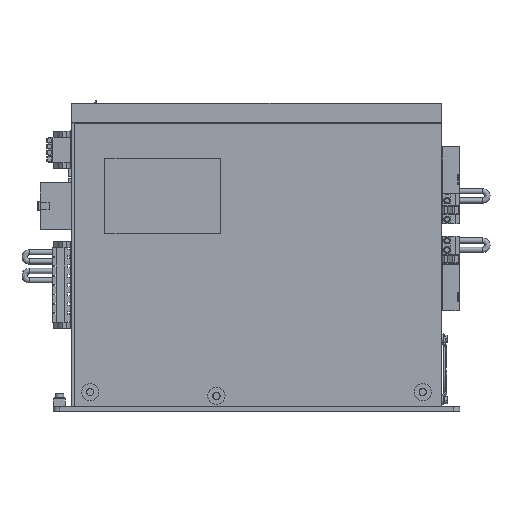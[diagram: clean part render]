
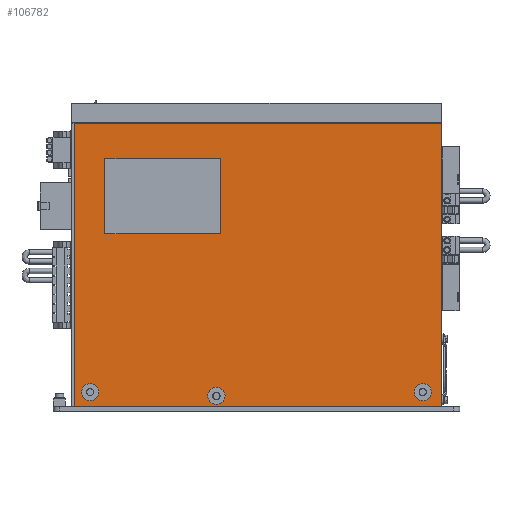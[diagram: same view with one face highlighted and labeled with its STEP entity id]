
A CAD part, left-side view. The second image highlights one B-rep face of the part: STEP entity #106782.
In plain terms, the highlighted planar face has unit normal (-1, 0, 0).
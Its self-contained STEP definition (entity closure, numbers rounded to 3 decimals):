
#1300 = EDGE_CURVE ( 'NONE', #50129, #69483, #17513, .T. ) ;
#1447 = CARTESIAN_POINT ( 'NONE',  ( -10., -9.5, 233.9 ) ) ;
#1585 = CIRCLE ( 'NONE', #92617, 6.96 ) ;
#2237 = DIRECTION ( 'NONE',  ( -1., 0., 0. ) ) ;
#3244 = CARTESIAN_POINT ( 'NONE',  ( -10., -9.5, 4.1 ) ) ;
#3688 = CARTESIAN_POINT ( 'NONE',  ( -10., -128.5, 144. ) ) ;
#4369 = EDGE_CURVE ( 'NONE', #6700, #123056, #88890, .T. ) ;
#4896 = AXIS2_PLACEMENT_3D ( 'NONE', #14669, #84615, #24755 ) ;
#6700 = VERTEX_POINT ( 'NONE', #65959 ) ;
#7814 = VERTEX_POINT ( 'NONE', #3688 ) ;
#8140 = EDGE_CURVE ( 'NONE', #123056, #7814, #125454, .T. ) ;
#9101 = VECTOR ( 'NONE', #74887, 1000. ) ;
#9625 = CARTESIAN_POINT ( 'NONE',  ( -10., -9.5, 4.1 ) ) ;
#9867 = DIRECTION ( 'NONE',  ( -1., 0., 0. ) ) ;
#11481 = ORIENTED_EDGE ( 'NONE', *, *, #73257, .F. ) ;
#11666 = ORIENTED_EDGE ( 'NONE', *, *, #14459, .T. ) ;
#14190 = CARTESIAN_POINT ( 'NONE',  ( -10., -118.04, 12.5 ) ) ;
#14459 = EDGE_CURVE ( 'NONE', #118516, #40580, #95015, .T. ) ;
#14669 = CARTESIAN_POINT ( 'NONE',  ( -10., -292.5, 15.5 ) ) ;
#14791 = DIRECTION ( 'NONE',  ( -1., 0., 0. ) ) ;
#14931 = CARTESIAN_POINT ( 'NONE',  ( -10., -34.5, 205. ) ) ;
#16178 = CARTESIAN_POINT ( 'NONE',  ( -10., -292.5, 15.5 ) ) ;
#16663 = CARTESIAN_POINT ( 'NONE',  ( -10., -128.5, 205. ) ) ;
#16781 = VERTEX_POINT ( 'NONE', #125136 ) ;
#17513 = LINE ( 'NONE', #3244, #67595 ) ;
#17820 = CARTESIAN_POINT ( 'NONE',  ( -10., -299.46, 15.5 ) ) ;
#17927 = CIRCLE ( 'NONE', #65117, 6.96 ) ;
#18656 = CIRCLE ( 'NONE', #90227, 6.96 ) ;
#19078 = LINE ( 'NONE', #49793, #69173 ) ;
#19898 = ORIENTED_EDGE ( 'NONE', *, *, #58699, .F. ) ;
#20327 = CARTESIAN_POINT ( 'NONE',  ( -10., -22.5, 15.5 ) ) ;
#23535 = CARTESIAN_POINT ( 'NONE',  ( -10., -307.5, 234. ) ) ;
#24755 = DIRECTION ( 'NONE',  ( 0., 1., 0. ) ) ;
#25961 = ORIENTED_EDGE ( 'NONE', *, *, #84791, .F. ) ;
#26245 = DIRECTION ( 'NONE',  ( 0., 1., 0. ) ) ;
#28618 = ORIENTED_EDGE ( 'NONE', *, *, #60873, .F. ) ;
#30271 = CARTESIAN_POINT ( 'NONE',  ( -10., -307.5, 4.1 ) ) ;
#30416 = DIRECTION ( 'NONE',  ( 0., 1., 0. ) ) ;
#31187 = VERTEX_POINT ( 'NONE', #114233 ) ;
#35568 = ORIENTED_EDGE ( 'NONE', *, *, #52877, .F. ) ;
#37602 = EDGE_LOOP ( 'NONE', ( #117771, #11481 ) ) ;
#39096 = CARTESIAN_POINT ( 'NONE',  ( -10., -128.5, 144. ) ) ;
#40580 = VERTEX_POINT ( 'NONE', #1447 ) ;
#43003 = FACE_BOUND ( 'NONE', #46655, .T. ) ;
#43172 = AXIS2_PLACEMENT_3D ( 'NONE', #74751, #14791, #84743 ) ;
#46655 = EDGE_LOOP ( 'NONE', ( #35568, #111402, #117797, #72898 ) ) ;
#48663 = AXIS2_PLACEMENT_3D ( 'NONE', #65089, #104270, #75160 ) ;
#49793 = CARTESIAN_POINT ( 'NONE',  ( -10., -128.5, 205. ) ) ;
#49867 = VECTOR ( 'NONE', #103396, 1000. ) ;
#50129 = VERTEX_POINT ( 'NONE', #9625 ) ;
#51156 = EDGE_LOOP ( 'NONE', ( #121281, #86338, #11666, #119380 ) ) ;
#51463 = VECTOR ( 'NONE', #109892, 1000. ) ;
#52877 = EDGE_CURVE ( 'NONE', #115570, #6700, #19078, .T. ) ;
#55563 = VERTEX_POINT ( 'NONE', #14190 ) ;
#56184 = EDGE_LOOP ( 'NONE', ( #19898, #25961 ) ) ;
#58699 = EDGE_CURVE ( 'NONE', #16781, #114171, #17927, .T. ) ;
#58909 = VECTOR ( 'NONE', #106533, 1000. ) ;
#59804 = DIRECTION ( 'NONE',  ( 0., 1., 0. ) ) ;
#60873 = EDGE_CURVE ( 'NONE', #126988, #129015, #84536, .T. ) ;
#62176 = CARTESIAN_POINT ( 'NONE',  ( -10., -22.5, 15.5 ) ) ;
#64958 = CARTESIAN_POINT ( 'NONE',  ( -10., -9.5, 233.9 ) ) ;
#65089 = CARTESIAN_POINT ( 'NONE',  ( -10., -9.5, 234. ) ) ;
#65117 = AXIS2_PLACEMENT_3D ( 'NONE', #20327, #90215, #30416 ) ;
#65959 = CARTESIAN_POINT ( 'NONE',  ( -10., -34.5, 205. ) ) ;
#66207 = CARTESIAN_POINT ( 'NONE',  ( -10., -128.5, 205. ) ) ;
#67595 = VECTOR ( 'NONE', #93283, 1000. ) ;
#69173 = VECTOR ( 'NONE', #59804, 1000. ) ;
#69483 = VERTEX_POINT ( 'NONE', #30271 ) ;
#69579 = FACE_BOUND ( 'NONE', #93469, .T. ) ;
#69875 = CARTESIAN_POINT ( 'NONE',  ( -10., -125., 12.5 ) ) ;
#71425 = EDGE_CURVE ( 'NONE', #40580, #50129, #101346, .T. ) ;
#72270 = DIRECTION ( 'NONE',  ( 0., 1., 0. ) ) ;
#72898 = ORIENTED_EDGE ( 'NONE', *, *, #4369, .F. ) ;
#73257 = EDGE_CURVE ( 'NONE', #31187, #55563, #18656, .T. ) ;
#74751 = CARTESIAN_POINT ( 'NONE',  ( -10., -125., 12.5 ) ) ;
#74887 = DIRECTION ( 'NONE',  ( 0., 0., -1. ) ) ;
#75023 = DIRECTION ( 'NONE',  ( 0., 1., 0. ) ) ;
#75160 = DIRECTION ( 'NONE',  ( 0., -1., 0. ) ) ;
#75837 = ORIENTED_EDGE ( 'NONE', *, *, #102964, .F. ) ;
#77108 = CARTESIAN_POINT ( 'NONE',  ( -10., -34.5, 144. ) ) ;
#78514 = CIRCLE ( 'NONE', #43172, 6.96 ) ;
#79617 = CARTESIAN_POINT ( 'NONE',  ( -10., -307.5, 233.9 ) ) ;
#79892 = DIRECTION ( 'NONE',  ( 0., 1., 0. ) ) ;
#84536 = CIRCLE ( 'NONE', #4896, 6.96 ) ;
#84615 = DIRECTION ( 'NONE',  ( -1., 0., 0. ) ) ;
#84743 = DIRECTION ( 'NONE',  ( 0., 1., 0. ) ) ;
#84784 = CIRCLE ( 'NONE', #105456, 6.96 ) ;
#84791 = EDGE_CURVE ( 'NONE', #114171, #16781, #84784, .T. ) ;
#85461 = LINE ( 'NONE', #16663, #58909 ) ;
#86095 = DIRECTION ( 'NONE',  ( -1., 0., 0. ) ) ;
#86338 = ORIENTED_EDGE ( 'NONE', *, *, #87376, .F. ) ;
#87376 = EDGE_CURVE ( 'NONE', #118516, #69483, #102876, .T. ) ;
#88890 = LINE ( 'NONE', #14931, #9101 ) ;
#90215 = DIRECTION ( 'NONE',  ( -1., 0., 0. ) ) ;
#90227 = AXIS2_PLACEMENT_3D ( 'NONE', #69875, #9867, #79892 ) ;
#92617 = AXIS2_PLACEMENT_3D ( 'NONE', #16178, #86095, #26245 ) ;
#93283 = DIRECTION ( 'NONE',  ( 0., -1., 0. ) ) ;
#93469 = EDGE_LOOP ( 'NONE', ( #28618, #75837 ) ) ;
#95015 = LINE ( 'NONE', #64958, #124629 ) ;
#96043 = FACE_OUTER_BOUND ( 'NONE', #51156, .T. ) ;
#96236 = EDGE_CURVE ( 'NONE', #7814, #115570, #85461, .T. ) ;
#99184 = FACE_BOUND ( 'NONE', #56184, .T. ) ;
#100360 = CARTESIAN_POINT ( 'NONE',  ( -10., -9.5, 119. ) ) ;
#101346 = LINE ( 'NONE', #100360, #51463 ) ;
#101694 = CARTESIAN_POINT ( 'NONE',  ( -10., -285.54, 15.5 ) ) ;
#102876 = LINE ( 'NONE', #23535, #49867 ) ;
#102964 = EDGE_CURVE ( 'NONE', #129015, #126988, #1585, .T. ) ;
#103396 = DIRECTION ( 'NONE',  ( 0., 0., -1. ) ) ;
#104270 = DIRECTION ( 'NONE',  ( 1., 0., 0. ) ) ;
#105456 = AXIS2_PLACEMENT_3D ( 'NONE', #62176, #2237, #72270 ) ;
#106533 = DIRECTION ( 'NONE',  ( 0., 0., 1. ) ) ;
#106782 = ADVANCED_FACE ( 'NONE', ( #99184, #122550, #69579, #96043, #43003 ), #124763, .F. ) ;
#109892 = DIRECTION ( 'NONE',  ( 0., 0., -1. ) ) ;
#111402 = ORIENTED_EDGE ( 'NONE', *, *, #96236, .F. ) ;
#114171 = VERTEX_POINT ( 'NONE', #115329 ) ;
#114233 = CARTESIAN_POINT ( 'NONE',  ( -10., -131.96, 12.5 ) ) ;
#115329 = CARTESIAN_POINT ( 'NONE',  ( -10., -29.46, 15.5 ) ) ;
#115570 = VERTEX_POINT ( 'NONE', #66207 ) ;
#117771 = ORIENTED_EDGE ( 'NONE', *, *, #128781, .F. ) ;
#117797 = ORIENTED_EDGE ( 'NONE', *, *, #8140, .F. ) ;
#118516 = VERTEX_POINT ( 'NONE', #79617 ) ;
#118880 = DIRECTION ( 'NONE',  ( 0., -1., 0. ) ) ;
#119171 = VECTOR ( 'NONE', #118880, 1000. ) ;
#119380 = ORIENTED_EDGE ( 'NONE', *, *, #71425, .T. ) ;
#121281 = ORIENTED_EDGE ( 'NONE', *, *, #1300, .T. ) ;
#122550 = FACE_BOUND ( 'NONE', #37602, .T. ) ;
#123056 = VERTEX_POINT ( 'NONE', #77108 ) ;
#124629 = VECTOR ( 'NONE', #75023, 1000. ) ;
#124763 = PLANE ( 'NONE',  #48663 ) ;
#125136 = CARTESIAN_POINT ( 'NONE',  ( -10., -15.54, 15.5 ) ) ;
#125454 = LINE ( 'NONE', #39096, #119171 ) ;
#126988 = VERTEX_POINT ( 'NONE', #101694 ) ;
#128781 = EDGE_CURVE ( 'NONE', #55563, #31187, #78514, .T. ) ;
#129015 = VERTEX_POINT ( 'NONE', #17820 ) ;
